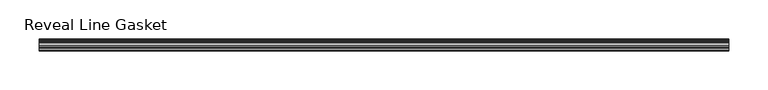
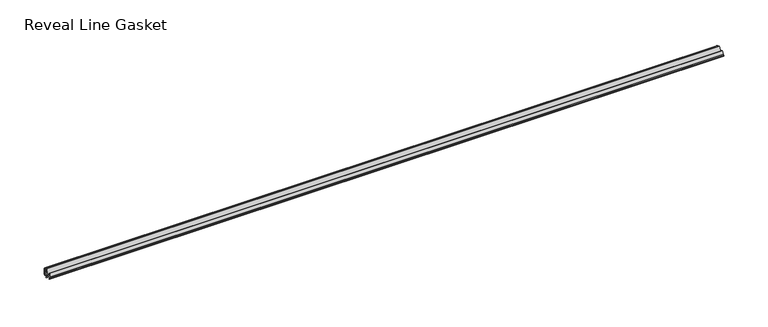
"""IFC4 building model written with IfcOpenShell, lengths in millimetres: proxy geometry, Accessories-Teknion-FHGR-AI_Healthcare-Reveal_Line_Gasket(Horizontal)-R2022 : Reveal Line Gasket."""

import ifcopenshell
import ifcopenshell.guid

model = None  # the IFC model being written
_history = None  # IfcOwnerHistory: only IFC2X3 demands one
_inside = {}  # id of a spatial element -> (the spatial element, [elements in it])
_under = {}  # id of a project, library or spatial element -> (it, [spatial elements below it])
_declared = {}  # id of a project -> (the project, [libraries it declares])
_typed = {}  # id of a type object -> (the type object, [elements of that type])
_made_of = {}  # id of a material, layer set ... -> (it, [elements and type objects made of it])


def new_model(schema):
    """Start an empty IFC model of exactly this schema.

    Asked for "IFC4X3", IfcOpenShell would pick the latest addendum, in which some entities
    have other attributes; the version numbers below select the first issue.
    IFC2X3 requires an IfcOwnerHistory on every rooted entity: one is made here for all.
    """
    global model, _history
    if schema == "IFC4X3":
        model = ifcopenshell.file(schema_version=(4, 3, 0, 0))
    else:
        model = ifcopenshell.file(schema=schema)
    _inside.clear()
    _under.clear()
    _declared.clear()
    _typed.clear()
    _made_of.clear()
    _history = None
    if model.schema == "IFC2X3":
        org = make("IfcOrganization", Name="unknown")
        user = make(
            "IfcPersonAndOrganization",
            ThePerson=make("IfcPerson", FamilyName="unknown"),
            TheOrganization=org,
        )
        app = make(
            "IfcApplication",
            ApplicationDeveloper=org,
            Version="unknown",
            ApplicationFullName="unknown",
            ApplicationIdentifier="unknown",
        )
        _history = make(
            "IfcOwnerHistory",
            OwningUser=user,
            OwningApplication=app,
            ChangeAction="ADDED",
            CreationDate=0,
        )
    return model


def make(cls, **values):
    """One entity of the class cls with the attributes given. An attribute that is None is left unset."""
    return model.create_entity(
        cls, **{name: value for name, value in values.items() if value is not None}
    )


def rooted(cls, **values):
    """An entity with a GlobalId (a new one), such as an element, a storey or a relation."""
    return make(cls, GlobalId=ifcopenshell.guid.new(), OwnerHistory=_history, **values)


def si_unit(unit_type, name, prefix=None):
    """IfcSIUnit, for example si_unit("LENGTHUNIT", "METRE", prefix="MILLI")."""
    return make("IfcSIUnit", UnitType=unit_type, Prefix=prefix, Name=name)


def assignment(units):
    """IfcUnitAssignment: the units of a project."""
    return None if units is None else make("IfcUnitAssignment", Units=units)


def point(xyz):
    """IfcCartesianPoint."""
    return None if xyz is None else make("IfcCartesianPoint", Coordinates=xyz)


def direction(xyz):
    """IfcDirection."""
    return None if xyz is None else make("IfcDirection", DirectionRatios=xyz)


def frame(location, z_axis=None, x_axis=None):
    """IfcAxis2Placement3D, a coordinate frame: its origin and axes. An axis left out is left unset."""
    return make(
        "IfcAxis2Placement3D",
        Location=point(location),
        Axis=direction(z_axis),
        RefDirection=direction(x_axis),
    )


def frame_2d(location, x_axis=None):
    """IfcAxis2Placement2D, a coordinate frame in the plane: its origin and x axis."""
    return make(
        "IfcAxis2Placement2D", Location=point(location), RefDirection=direction(x_axis)
    )


def origin():
    """The frame at (0, 0, 0) with its axes left unset."""
    return frame((0.0, 0.0, 0.0))


def place(relative_to, where):
    """IfcLocalPlacement: puts the frame where relative to a parent placement (None: the world)."""
    return make(
        "IfcLocalPlacement", PlacementRelTo=relative_to, RelativePlacement=where
    )


def context(
    kind, dimensions, precision=None, world=None, true_north=None, identifier=None
):
    """IfcGeometricRepresentationContext, for example the 3D "Model" context."""
    return make(
        "IfcGeometricRepresentationContext",
        ContextIdentifier=identifier,
        ContextType=kind,
        CoordinateSpaceDimension=dimensions,
        Precision=precision,
        WorldCoordinateSystem=world,
        TrueNorth=true_north,
    )


def project(units=None, contexts=None):
    """IfcProject with its units and contexts."""
    return rooted(
        "IfcProject",
        Name="project",
        RepresentationContexts=contexts,
        UnitsInContext=assignment(units),
    )


def spatial(cls, under=None, at=None, **own):
    """A site, building, storey or space (cls), placed at a placement, below another one or the project."""
    s = rooted(cls, ObjectPlacement=at, **own)
    if under is not None:
        _under.setdefault(under.id(), (under, []))[1].append(s)
    return s


def polyline(points):
    """IfcPolyline through the points."""
    return make("IfcPolyline", Points=[point(p) for p in points])


def circle_curve(where, radius):
    """IfcCircle in the frame where."""
    return make("IfcCircle", Position=where, Radius=radius)


def trimmed(basis, trim1, trim2, sense, master):
    """IfcTrimmedCurve: the piece of a basis curve between two trims."""
    return make(
        "IfcTrimmedCurve",
        BasisCurve=basis,
        Trim1=trim1,
        Trim2=trim2,
        SenseAgreement=sense,
        MasterRepresentation=master,
    )


def segment(curve, same_sense, transition):
    """IfcCompositeCurveSegment."""
    return make(
        "IfcCompositeCurveSegment",
        Transition=transition,
        SameSense=same_sense,
        ParentCurve=curve,
    )


def composite_curve(segments, self_intersect=None):
    """IfcCompositeCurve: segments joined end to end."""
    return make("IfcCompositeCurve", Segments=segments, SelfIntersect=self_intersect)


def outline(outer, holes=None, kind="AREA"):
    """IfcArbitraryClosedProfileDef: a profile drawn as a closed curve; with holes, ...WithVoids."""
    if holes is None:
        return make("IfcArbitraryClosedProfileDef", ProfileType=kind, OuterCurve=outer)
    return make(
        "IfcArbitraryProfileDefWithVoids",
        ProfileType=kind,
        OuterCurve=outer,
        InnerCurves=holes,
    )


def extrude(swept, where, along, depth):
    """IfcExtrudedAreaSolid: the profile swept, set in the frame where, extruded along a direction by depth."""
    return make(
        "IfcExtrudedAreaSolid",
        SweptArea=swept,
        Position=where,
        ExtrudedDirection=direction(along),
        Depth=depth,
    )


def shape(context_of_items, identifier, shape_type, items):
    """IfcShapeRepresentation: the items that make up one representation, for example the "Body"."""
    return make(
        "IfcShapeRepresentation",
        ContextOfItems=context_of_items,
        RepresentationIdentifier=identifier,
        RepresentationType=shape_type,
        Items=items,
    )


def source(mapping_origin, context_of_items, identifier, shape_type, items):
    """IfcRepresentationMap: a shape defined once, which mapped items show again and again."""
    return make(
        "IfcRepresentationMap",
        MappingOrigin=mapping_origin,
        MappedRepresentation=shape(context_of_items, identifier, shape_type, items),
    )


def transform(
    local_origin,
    x_axis=None,
    y_axis=None,
    z_axis=None,
    scale=None,
    scale2=None,
    scale3=None,
    uniform=True,
):
    """IfcCartesianTransformationOperator3D, or its non-uniform kind. x_axis, y_axis, z_axis: its Axis1, 2, 3."""
    if uniform:
        return make(
            "IfcCartesianTransformationOperator3D",
            Axis1=direction(x_axis),
            Axis2=direction(y_axis),
            LocalOrigin=point(local_origin),
            Scale=scale,
            Axis3=direction(z_axis),
        )
    return make(
        "IfcCartesianTransformationOperator3DnonUniform",
        Axis1=direction(x_axis),
        Axis2=direction(y_axis),
        LocalOrigin=point(local_origin),
        Scale=scale,
        Axis3=direction(z_axis),
        Scale2=scale2,
        Scale3=scale3,
    )


def mapped(mapping_source, mapping_target):
    """IfcMappedItem: shows the shape of a source again, moved by a transform."""
    return make(
        "IfcMappedItem", MappingSource=mapping_source, MappingTarget=mapping_target
    )


def made_of(thing, what):
    """Note that an element or type object is made of a material, layer set ...; save() writes the relation."""
    if what is not None:
        _made_of.setdefault(what.id(), (what, []))[1].append(thing)
    return thing


def element(
    cls,
    number,
    at=None,
    inside=None,
    cuts=None,
    type_object=None,
    material=None,
    context=None,
    identifier="Body",
    shape_type=None,
    held_by="IfcProductDefinitionShape",
    body=None,
    shapes=None,
    **own,
):
    """One element of the class cls, such as IfcWall. Its Tag is "e" and its number.

    at: its placement. inside: the storey or other place that contains it. cuts: it is an
    opening in that element (IfcRelVoidsElement). A single representation is given by context,
    identifier, shape_type and body (its items); several are given by shapes. held_by: the class
    of the entity that holds the representations. save() writes the other relations.
    """
    e = rooted(cls, Tag="e%d" % number, ObjectPlacement=at, **own)
    if body is not None:
        shapes = [shape(context, identifier, shape_type, body)]
    if shapes is not None:
        e.Representation = make(held_by, Representations=shapes)
    if inside is not None:
        _inside.setdefault(inside.id(), (inside, []))[1].append(e)
    if cuts is not None:
        rooted(
            "IfcRelVoidsElement", RelatingBuildingElement=cuts, RelatedOpeningElement=e
        )
    if type_object is not None:
        _typed.setdefault(type_object.id(), (type_object, []))[1].append(e)
    return made_of(e, material)


def aggregate(whole, parts):
    """IfcRelAggregates: a whole, such as a stair, and the parts it consists of."""
    return rooted("IfcRelAggregates", RelatingObject=whole, RelatedObjects=parts)


def save(model, path):
    """Write the relations noted so far, then the file.

    IfcRelAggregates (storeys below a building ...), IfcRelContainedInSpatialStructure (elements
    in a storey), IfcRelDefinesByType, IfcRelAssociatesMaterial and IfcRelDeclares: one each for
    every whole, place, type object, material and project.
    """
    for whole, parts in _under.values():
        aggregate(whole, parts)
    for where, things in _inside.values():
        rooted(
            "IfcRelContainedInSpatialStructure",
            RelatedElements=things,
            RelatingStructure=where,
        )
    for kind, things in _typed.values():
        rooted("IfcRelDefinesByType", RelatedObjects=things, RelatingType=kind)
    for what, things in _made_of.values():
        rooted("IfcRelAssociatesMaterial", RelatedObjects=things, RelatingMaterial=what)
    for by, libraries in _declared.values():
        rooted("IfcRelDeclares", RelatingContext=by, RelatedDefinitions=libraries)
    model.write(path)


def reveal_line_gasket_268d3c0b(model_context):
    return source(origin(), model_context, "Body", "SweptSolid", [
        extrude(outline(composite_curve([segment(polyline([(7.6326998, 1603.2), (7.6326998, 1597.2), (7.4091917, 1596.2445073), (6.8813059, 1595.3115316)]), True, "CONTINUOUS"), segment(trimmed(circle_curve(frame_2d((6.5243141, 1595.5135207)), 0.4101739), [point((6.8813059, 1595.3115316))], [point((6.1246704, 1595.6058653))], False, "CARTESIAN"), True, "CONTINUOUS"), segment(polyline([(6.1246704, 1595.6058653), (6.3626997, 1597.3020914), (6.3626997, 1599.3345473)]), True, "CONTINUOUS"), segment(trimmed(circle_curve(frame_2d((5.6959605, 1598.9180742)), 0.786124), [point((6.3626997, 1599.3345473))], [point((5.0926996, 1599.422125))], True, "CARTESIAN"), True, "CONTINUOUS"), segment(polyline([(5.0926996, 1599.422125), (0.7492996, 1599.422125), (3.7293824, 1594.2604705)]), True, "CONTINUOUS"), segment(trimmed(circle_curve(frame_2d((3.3132479, 1594.1950239)), 0.4212495), [point((3.7293824, 1594.2604705))], [point((3.0485022, 1593.8673642))], False, "CARTESIAN"), True, "CONTINUOUS"), segment(polyline([(3.0485022, 1593.8673642), (-0.5742594, 1599.422125), (-4.8262978, 1599.422125), (-3.1660374, 1596.5464703)]), True, "CONTINUOUS"), segment(trimmed(circle_curve(frame_2d((-3.5978728, 1596.4881145)), 0.4357605), [point((-3.1660374, 1596.5464703))], [point((-3.864328, 1596.1433119))], False, "CARTESIAN"), True, "CONTINUOUS"), segment(polyline([(-3.864328, 1596.1433119), (-6.1944059, 1599.422125), (-7.6326998, 1599.422125), (-7.6326998, 1600.977875), (-6.1944059, 1600.977875), (-3.864328, 1604.2566881)]), True, "CONTINUOUS"), segment(trimmed(circle_curve(frame_2d((-3.5978728, 1603.9118855)), 0.4357605), [point((-3.864328, 1604.2566881))], [point((-3.1660374, 1603.8535297))], False, "CARTESIAN"), True, "CONTINUOUS"), segment(polyline([(-3.1660374, 1603.8535297), (-4.8262978, 1600.977875), (-0.5742594, 1600.977875), (3.0485022, 1606.5326358)]), True, "CONTINUOUS"), segment(trimmed(circle_curve(frame_2d((3.3132479, 1606.2049761)), 0.4212495), [point((3.0485022, 1606.5326358))], [point((3.7293824, 1606.1395295))], False, "CARTESIAN"), True, "CONTINUOUS"), segment(polyline([(3.7293824, 1606.1395295), (0.7492996, 1600.977875), (5.0926996, 1600.977875)]), True, "CONTINUOUS"), segment(trimmed(circle_curve(frame_2d((5.6959605, 1601.4819258)), 0.786124), [point((5.0926996, 1600.977875))], [point((6.3626997, 1601.0654527))], True, "CARTESIAN"), True, "CONTINUOUS"), segment(polyline([(6.3626997, 1601.0654527), (6.3626997, 1603.0979086), (6.1246704, 1604.7941347)]), True, "CONTINUOUS"), segment(trimmed(circle_curve(frame_2d((6.5243141, 1604.8864793)), 0.4101739), [point((6.1246704, 1604.7941347))], [point((6.8813059, 1605.0884684))], False, "CARTESIAN"), True, "CONTINUOUS"), segment(polyline([(6.8813059, 1605.0884684), (7.4091917, 1604.1554927), (7.6326998, 1603.2)]), True, "CONTINUOUS")], self_intersect=False)), frame((-439.1239898, 0.0, 0.0), z_axis=(1.0, 0.0, 0.0), x_axis=(0.0, 1.0, 0.0)), (0.0, 0.0, 1.0), 878.2479795),
    ])


if __name__ == "__main__":
    model = new_model("IFC4")
    model_context = context("Model", 3, world=origin())
    ifc_project = project(units=[si_unit("LENGTHUNIT", "METRE", prefix="MILLI")], contexts=[model_context])
    site = spatial("IfcSite", under=ifc_project)
    building = spatial("IfcBuilding", under=site)
    placement = place(None, origin())
    reveal_line_gasket_shape = reveal_line_gasket_268d3c0b(model_context)
    element("IfcBuildingElementProxy", 1, Name="Accessories-Teknion-FHGR-AI_Healthcare-Reveal_Line_Gasket(Horizontal)-R2022 : Reveal Line Gasket", ObjectType="Accessories-Teknion-FHGR-AI_Healthcare-Reveal_Line_Gasket(Horizontal)-R2022 : Reveal Line Gasket", at=placement, inside=building, context=model_context, shape_type="MappedRepresentation", body=[
        mapped(reveal_line_gasket_shape, transform((0.0, 0.0, 0.0), x_axis=(1.0, 0.0, 0.0), y_axis=(0.0, 1.0, 0.0), z_axis=(0.0, 0.0, 1.0))),
    ])
    save(model, "model.ifc")
